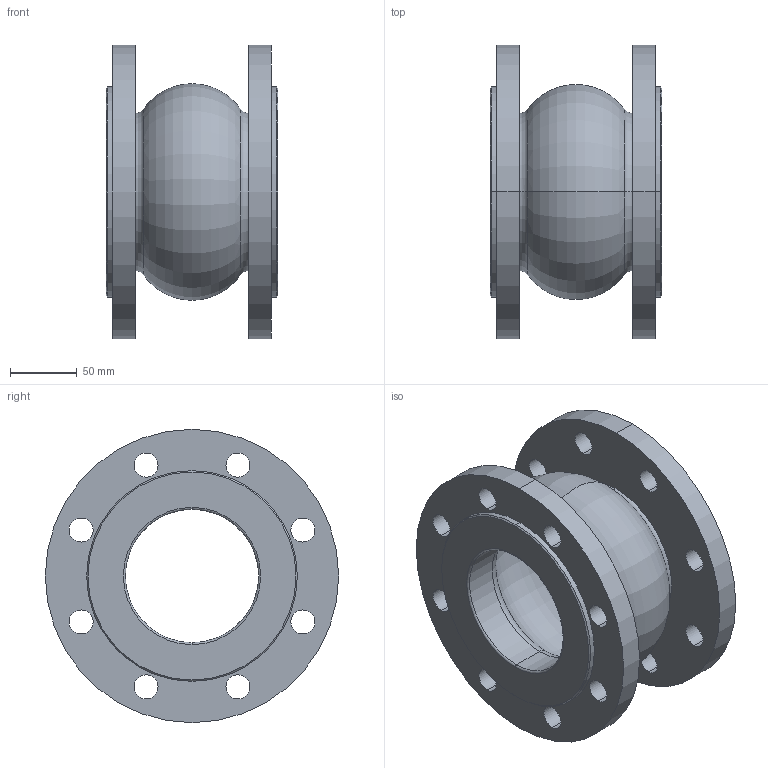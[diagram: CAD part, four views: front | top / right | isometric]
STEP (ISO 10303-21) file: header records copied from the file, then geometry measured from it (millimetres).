
FILE_DESCRIPTION (( 'STEP AP203' ), '1' );
FILE_NAME ('F8_PN16_DN100.STEP', '2012-10-31T08:44:38', ( 'luca.saino' ), ( 'Hewlett-Packard Company' ), 'SwSTEP 2.0', 'SolidWorks 2012', '' );
FILE_SCHEMA (( 'CONFIG_CONTROL_DESIGN' ));
Length unit declared in the file: millimetre
Products named in the file (1): F8_PN16_DN100
Bounding box: 129 x 220 x 220 mm (x, y, z)
Volume: 1442182.6 mm3; surface area: 248463.9 mm2
Topology: 1 solids, 1 shells, 74 faces, 180 edges, 112 vertices
Faces by surface type: cylinder 44, torus 16, cone 8, plane 6
Entity records: 2365 total; most frequent: DIRECTION 458, CARTESIAN_POINT 367, ORIENTED_EDGE 360, AXIS2_PLACEMENT_3D 203, EDGE_CURVE 180, CIRCLE 128, EDGE_LOOP 112, VERTEX_POINT 112
